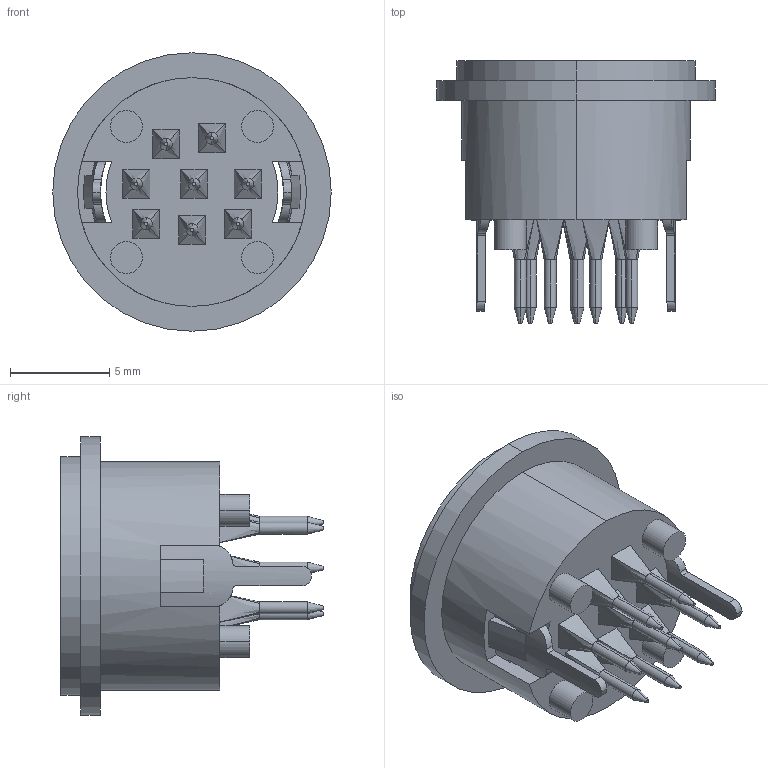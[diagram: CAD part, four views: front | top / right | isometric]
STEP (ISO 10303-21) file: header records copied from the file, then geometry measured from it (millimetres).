
FILE_DESCRIPTION (( 'STEP AP214' ), '1' );
FILE_NAME ('CUI_DEVICES_MD-80SV.step', '2020-11-06T15:29:56', ( '' ), ( '' ), 'SwSTEP 2.0', 'SolidWorks 2020', '' );
FILE_SCHEMA (( 'AUTOMOTIVE_DESIGN' ));
Length unit declared in the file: inch
Products named in the file (1): CUI_DEVICES_MD-80SV
Bounding box: 14 x 13.2 x 14 mm (x, y, z)
Volume: 730.1 mm3; surface area: 1630.6 mm2
Topology: 9 solids, 33 shells, 480 faces, 1212 edges, 796 vertices
Faces by surface type: plane 263, cylinder 147, cone 38, bspline 32
Entity records: 16471 total; most frequent: CARTESIAN_POINT 4147, ORIENTED_EDGE 2424, DIRECTION 2294, EDGE_CURVE 1212, VERTEX_POINT 796, VECTOR 792, LINE 792, AXIS2_PLACEMENT_3D 751
